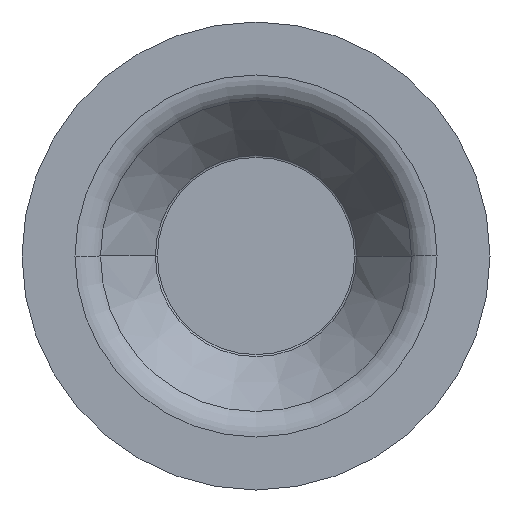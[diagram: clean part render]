
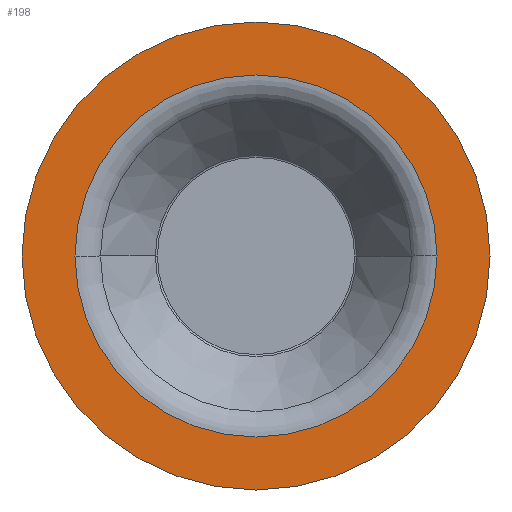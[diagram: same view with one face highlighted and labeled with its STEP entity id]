
A CAD part, front view. The second image highlights one B-rep face of the part: STEP entity #198.
In plain terms, the highlighted planar face has unit normal (0, -1, 0).
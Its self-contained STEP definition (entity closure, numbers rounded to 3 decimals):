
#7 = VERTEX_POINT ( 'NONE', #957 ) ;
#35 = VERTEX_POINT ( 'NONE', #971 ) ;
#39 = EDGE_CURVE ( 'NONE', #1281, #35, #955, .T. ) ;
#57 = AXIS2_PLACEMENT_3D ( 'NONE', #846, #202, #65 ) ;
#65 = DIRECTION ( 'NONE',  ( 1., 0., 0. ) ) ;
#89 = DIRECTION ( 'NONE',  ( 0., -1., 0. ) ) ;
#90 = DIRECTION ( 'NONE',  ( 0., -1., 0. ) ) ;
#198 = ADVANCED_FACE ( 'NONE', ( #1135, #969 ), #1230, .T. ) ;
#202 = DIRECTION ( 'NONE',  ( 0., -1., 0. ) ) ;
#209 = CIRCLE ( 'NONE', #890, 47.5 ) ;
#305 = CARTESIAN_POINT ( 'NONE',  ( 0., -22., 0. ) ) ;
#360 = CARTESIAN_POINT ( 'NONE',  ( 0., -22., 0. ) ) ;
#378 = AXIS2_PLACEMENT_3D ( 'NONE', #360, #89, #628 ) ;
#473 = CARTESIAN_POINT ( 'NONE',  ( 36.744, -22., 0. ) ) ;
#481 = DIRECTION ( 'NONE',  ( 1., 0., 0. ) ) ;
#582 = DIRECTION ( 'NONE',  ( -1., 0., 0. ) ) ;
#595 = DIRECTION ( 'NONE',  ( 0., -1., 0. ) ) ;
#628 = DIRECTION ( 'NONE',  ( 1., 0., 0. ) ) ;
#648 = VERTEX_POINT ( 'NONE', #1522 ) ;
#740 = ORIENTED_EDGE ( 'NONE', *, *, #1269, .T. ) ;
#771 = EDGE_LOOP ( 'NONE', ( #1375, #882 ) ) ;
#841 = CARTESIAN_POINT ( 'NONE',  ( 0., -22., 0. ) ) ;
#846 = CARTESIAN_POINT ( 'NONE',  ( 47.5, -22., 0. ) ) ;
#882 = ORIENTED_EDGE ( 'NONE', *, *, #39, .F. ) ;
#890 = AXIS2_PLACEMENT_3D ( 'NONE', #1639, #595, #481 ) ;
#913 = EDGE_CURVE ( 'NONE', #35, #1281, #1231, .T. ) ;
#929 = AXIS2_PLACEMENT_3D ( 'NONE', #841, #1362, #582 ) ;
#955 = CIRCLE ( 'NONE', #929, 36.744 ) ;
#957 = CARTESIAN_POINT ( 'NONE',  ( -47.5, -22., 0. ) ) ;
#969 = FACE_OUTER_BOUND ( 'NONE', #1167, .T. ) ;
#970 = DIRECTION ( 'NONE',  ( -1., 0., 0. ) ) ;
#971 = CARTESIAN_POINT ( 'NONE',  ( -36.744, -22., 0. ) ) ;
#1045 = ORIENTED_EDGE ( 'NONE', *, *, #1329, .T. ) ;
#1135 = FACE_BOUND ( 'NONE', #771, .T. ) ;
#1167 = EDGE_LOOP ( 'NONE', ( #740, #1045 ) ) ;
#1230 = PLANE ( 'NONE',  #57 ) ;
#1231 = CIRCLE ( 'NONE', #1367, 36.744 ) ;
#1269 = EDGE_CURVE ( 'NONE', #648, #7, #209, .T. ) ;
#1281 = VERTEX_POINT ( 'NONE', #473 ) ;
#1325 = CIRCLE ( 'NONE', #378, 47.5 ) ;
#1329 = EDGE_CURVE ( 'NONE', #7, #648, #1325, .T. ) ;
#1362 = DIRECTION ( 'NONE',  ( 0., -1., 0. ) ) ;
#1367 = AXIS2_PLACEMENT_3D ( 'NONE', #305, #90, #970 ) ;
#1375 = ORIENTED_EDGE ( 'NONE', *, *, #913, .F. ) ;
#1522 = CARTESIAN_POINT ( 'NONE',  ( 47.5, -22., 0. ) ) ;
#1639 = CARTESIAN_POINT ( 'NONE',  ( 0., -22., 0. ) ) ;
